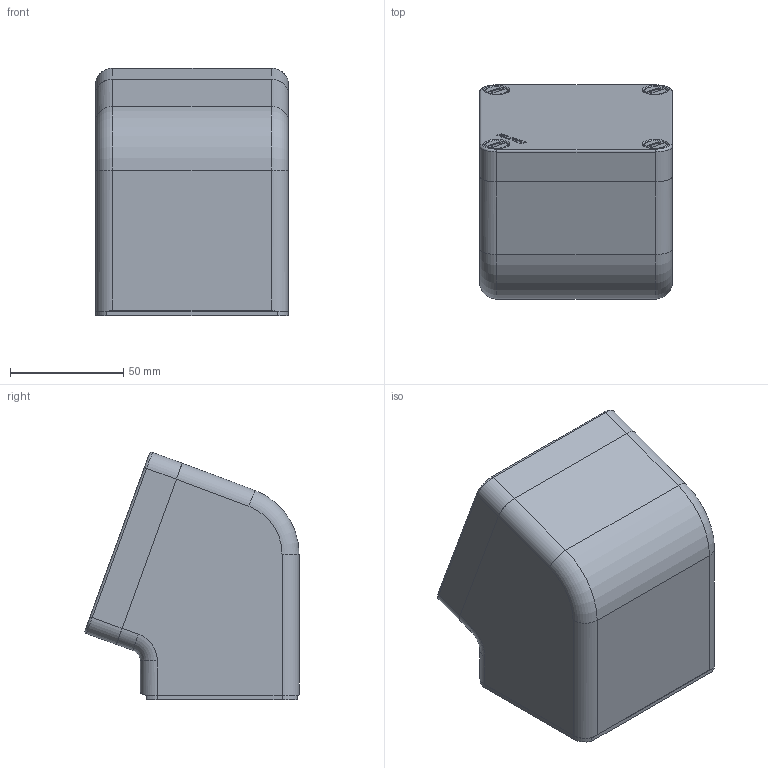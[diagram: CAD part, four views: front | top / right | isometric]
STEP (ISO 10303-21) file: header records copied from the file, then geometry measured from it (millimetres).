
FILE_DESCRIPTION (( 'STEP AP214' ), '1' );
FILE_NAME ('040L0808-8E.STEP', '2018-04-28T14:36:24', ( '' ), ( '' ), 'SwSTEP 2.0', 'SolidWorks 2013', '' );
FILE_SCHEMA (( 'AUTOMOTIVE_DESIGN' ));
Length unit declared in the file: millimetre
Products named in the file (1): 040L0808-8E
Bounding box: 85 x 94.41 x 109.11 mm (x, y, z)
Volume: 206536.5 mm3; surface area: 97808.1 mm2
Topology: 6 solids, 6 shells, 692 faces, 1718 edges, 1085 vertices
Faces by surface type: plane 318, cylinder 272, torus 88, cone 12, bspline 2
Entity records: 28357 total; most frequent: CARTESIAN_POINT 3863, DIRECTION 3644, ORIENTED_EDGE 3434, EDGE_CURVE 1717, AXIS2_PLACEMENT_3D 1308, VERTEX_POINT 1085, VECTOR 1028, LINE 1028
